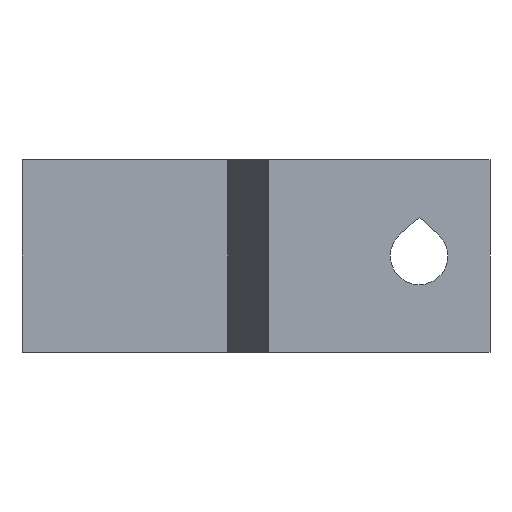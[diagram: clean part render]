
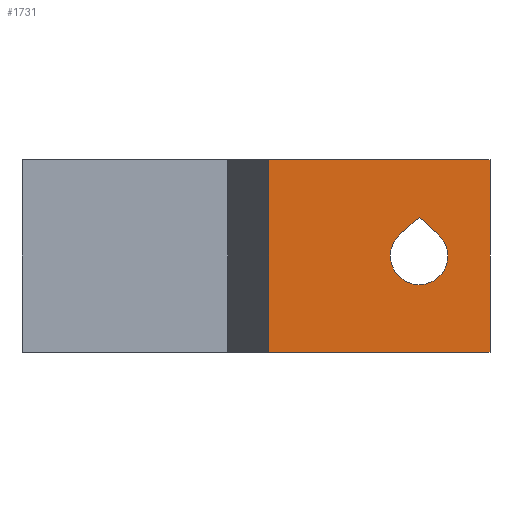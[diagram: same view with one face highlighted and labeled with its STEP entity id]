
A CAD part, left-side view. The second image highlights one B-rep face of the part: STEP entity #1731.
In plain terms, the highlighted planar face has unit normal (-1, 0, 0).
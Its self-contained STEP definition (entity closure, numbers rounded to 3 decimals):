
#90 = PLANE('',#91);
#91 = AXIS2_PLACEMENT_3D('',#92,#93,#94);
#92 = CARTESIAN_POINT('',(0.,10.429,20.8));
#93 = DIRECTION('',(-0.,-0.,-1.));
#94 = DIRECTION('',(-1.,0.,0.));
#144 = PLANE('',#145);
#145 = AXIS2_PLACEMENT_3D('',#146,#147,#148);
#146 = CARTESIAN_POINT('',(0.,10.429,7.2));
#147 = DIRECTION('',(-0.,-0.,-1.));
#148 = DIRECTION('',(-1.,0.,0.));
#268 = PLANE('',#269);
#269 = AXIS2_PLACEMENT_3D('',#270,#271,#272);
#270 = CARTESIAN_POINT('',(-13.5,10.6,7.2));
#271 = DIRECTION('',(-0.397,0.918,0.));
#272 = DIRECTION('',(0.918,0.397,0.));
#519 = VERTEX_POINT('',#520);
#520 = CARTESIAN_POINT('',(-13.5,-5.,7.2));
#534 = PLANE('',#535);
#535 = AXIS2_PLACEMENT_3D('',#536,#537,#538);
#536 = CARTESIAN_POINT('',(-10.6,-5.,7.2));
#537 = DIRECTION('',(0.,-1.,0.));
#538 = DIRECTION('',(-1.,0.,0.));
#546 = EDGE_CURVE('',#519,#547,#549,.T.);
#547 = VERTEX_POINT('',#548);
#548 = CARTESIAN_POINT('',(-13.5,10.6,7.2));
#549 = SURFACE_CURVE('',#550,(#554,#561),.PCURVE_S1.);
#550 = LINE('',#551,#552);
#551 = CARTESIAN_POINT('',(-13.5,-5.,7.2));
#552 = VECTOR('',#553,1.);
#553 = DIRECTION('',(0.,1.,0.));
#554 = PCURVE('',#144,#555);
#555 = DEFINITIONAL_REPRESENTATION('',(#556),#560);
#556 = LINE('',#557,#558);
#557 = CARTESIAN_POINT('',(13.5,-15.429));
#558 = VECTOR('',#559,1.);
#559 = DIRECTION('',(0.,1.));
#560 = ( GEOMETRIC_REPRESENTATION_CONTEXT(2) 
PARAMETRIC_REPRESENTATION_CONTEXT() REPRESENTATION_CONTEXT('2D SPACE',''
  ) );
#561 = PCURVE('',#562,#567);
#562 = PLANE('',#563);
#563 = AXIS2_PLACEMENT_3D('',#564,#565,#566);
#564 = CARTESIAN_POINT('',(-13.5,-5.,7.2));
#565 = DIRECTION('',(-1.,0.,0.));
#566 = DIRECTION('',(0.,1.,0.));
#567 = DEFINITIONAL_REPRESENTATION('',(#568),#572);
#568 = LINE('',#569,#570);
#569 = CARTESIAN_POINT('',(0.,0.));
#570 = VECTOR('',#571,1.);
#571 = DIRECTION('',(1.,0.));
#572 = ( GEOMETRIC_REPRESENTATION_CONTEXT(2) 
PARAMETRIC_REPRESENTATION_CONTEXT() REPRESENTATION_CONTEXT('2D SPACE',''
  ) );
#870 = VERTEX_POINT('',#871);
#871 = CARTESIAN_POINT('',(-13.5,-5.,20.8));
#892 = EDGE_CURVE('',#870,#893,#895,.T.);
#893 = VERTEX_POINT('',#894);
#894 = CARTESIAN_POINT('',(-13.5,10.6,20.8));
#895 = SURFACE_CURVE('',#896,(#900,#907),.PCURVE_S1.);
#896 = LINE('',#897,#898);
#897 = CARTESIAN_POINT('',(-13.5,-5.,20.8));
#898 = VECTOR('',#899,1.);
#899 = DIRECTION('',(0.,1.,0.));
#900 = PCURVE('',#90,#901);
#901 = DEFINITIONAL_REPRESENTATION('',(#902),#906);
#902 = LINE('',#903,#904);
#903 = CARTESIAN_POINT('',(13.5,-15.429));
#904 = VECTOR('',#905,1.);
#905 = DIRECTION('',(0.,1.));
#906 = ( GEOMETRIC_REPRESENTATION_CONTEXT(2) 
PARAMETRIC_REPRESENTATION_CONTEXT() REPRESENTATION_CONTEXT('2D SPACE',''
  ) );
#907 = PCURVE('',#562,#908);
#908 = DEFINITIONAL_REPRESENTATION('',(#909),#913);
#909 = LINE('',#910,#911);
#910 = CARTESIAN_POINT('',(0.,-13.6));
#911 = VECTOR('',#912,1.);
#912 = DIRECTION('',(1.,0.));
#913 = ( GEOMETRIC_REPRESENTATION_CONTEXT(2) 
PARAMETRIC_REPRESENTATION_CONTEXT() REPRESENTATION_CONTEXT('2D SPACE',''
  ) );
#1218 = EDGE_CURVE('',#547,#893,#1219,.T.);
#1219 = SURFACE_CURVE('',#1220,(#1224,#1231),.PCURVE_S1.);
#1220 = LINE('',#1221,#1222);
#1221 = CARTESIAN_POINT('',(-13.5,10.6,7.2));
#1222 = VECTOR('',#1223,1.);
#1223 = DIRECTION('',(0.,0.,1.));
#1224 = PCURVE('',#268,#1225);
#1225 = DEFINITIONAL_REPRESENTATION('',(#1226),#1230);
#1226 = LINE('',#1227,#1228);
#1227 = CARTESIAN_POINT('',(0.,0.));
#1228 = VECTOR('',#1229,1.);
#1229 = DIRECTION('',(0.,-1.));
#1230 = ( GEOMETRIC_REPRESENTATION_CONTEXT(2) 
PARAMETRIC_REPRESENTATION_CONTEXT() REPRESENTATION_CONTEXT('2D SPACE',''
  ) );
#1231 = PCURVE('',#562,#1232);
#1232 = DEFINITIONAL_REPRESENTATION('',(#1233),#1237);
#1233 = LINE('',#1234,#1235);
#1234 = CARTESIAN_POINT('',(15.6,0.));
#1235 = VECTOR('',#1236,1.);
#1236 = DIRECTION('',(0.,-1.));
#1237 = ( GEOMETRIC_REPRESENTATION_CONTEXT(2) 
PARAMETRIC_REPRESENTATION_CONTEXT() REPRESENTATION_CONTEXT('2D SPACE',''
  ) );
#1634 = PLANE('',#1635);
#1635 = AXIS2_PLACEMENT_3D('',#1636,#1637,#1638);
#1636 = CARTESIAN_POINT('',(-15.,0.,16.734));
#1637 = DIRECTION('',(-0.,0.673,0.74));
#1638 = DIRECTION('',(0.,0.74,-0.673));
#1667 = CYLINDRICAL_SURFACE('',#1668,2.025);
#1668 = AXIS2_PLACEMENT_3D('',#1669,#1670,#1671);
#1669 = CARTESIAN_POINT('',(-15.,0.,14.));
#1670 = DIRECTION('',(-1.,-0.,-0.));
#1671 = DIRECTION('',(0.,-0.635,0.773));
#1693 = PLANE('',#1694);
#1694 = AXIS2_PLACEMENT_3D('',#1695,#1696,#1697);
#1695 = CARTESIAN_POINT('',(-15.,-1.285,15.565));
#1696 = DIRECTION('',(0.,-0.673,0.74));
#1697 = DIRECTION('',(0.,0.74,0.673));
#1710 = EDGE_CURVE('',#519,#870,#1711,.T.);
#1711 = SURFACE_CURVE('',#1712,(#1716,#1723),.PCURVE_S1.);
#1712 = LINE('',#1713,#1714);
#1713 = CARTESIAN_POINT('',(-13.5,-5.,7.2));
#1714 = VECTOR('',#1715,1.);
#1715 = DIRECTION('',(0.,0.,1.));
#1716 = PCURVE('',#534,#1717);
#1717 = DEFINITIONAL_REPRESENTATION('',(#1718),#1722);
#1718 = LINE('',#1719,#1720);
#1719 = CARTESIAN_POINT('',(2.9,0.));
#1720 = VECTOR('',#1721,1.);
#1721 = DIRECTION('',(0.,-1.));
#1722 = ( GEOMETRIC_REPRESENTATION_CONTEXT(2) 
PARAMETRIC_REPRESENTATION_CONTEXT() REPRESENTATION_CONTEXT('2D SPACE',''
  ) );
#1723 = PCURVE('',#562,#1724);
#1724 = DEFINITIONAL_REPRESENTATION('',(#1725),#1729);
#1725 = LINE('',#1726,#1727);
#1726 = CARTESIAN_POINT('',(0.,0.));
#1727 = VECTOR('',#1728,1.);
#1728 = DIRECTION('',(0.,-1.));
#1729 = ( GEOMETRIC_REPRESENTATION_CONTEXT(2) 
PARAMETRIC_REPRESENTATION_CONTEXT() REPRESENTATION_CONTEXT('2D SPACE',''
  ) );
#1731 = ADVANCED_FACE('',(#1732,#1738),#562,.T.);
#1732 = FACE_BOUND('',#1733,.T.);
#1733 = EDGE_LOOP('',(#1734,#1735,#1736,#1737));
#1734 = ORIENTED_EDGE('',*,*,#1710,.T.);
#1735 = ORIENTED_EDGE('',*,*,#892,.T.);
#1736 = ORIENTED_EDGE('',*,*,#1218,.F.);
#1737 = ORIENTED_EDGE('',*,*,#546,.F.);
#1738 = FACE_BOUND('',#1739,.T.);
#1739 = EDGE_LOOP('',(#1740,#1766,#1789));
#1740 = ORIENTED_EDGE('',*,*,#1741,.F.);
#1741 = EDGE_CURVE('',#1742,#1744,#1746,.T.);
#1742 = VERTEX_POINT('',#1743);
#1743 = CARTESIAN_POINT('',(-13.5,1.285,15.565));
#1744 = VERTEX_POINT('',#1745);
#1745 = CARTESIAN_POINT('',(-13.5,-1.285,15.565));
#1746 = SURFACE_CURVE('',#1747,(#1752,#1759),.PCURVE_S1.);
#1747 = CIRCLE('',#1748,2.025);
#1748 = AXIS2_PLACEMENT_3D('',#1749,#1750,#1751);
#1749 = CARTESIAN_POINT('',(-13.5,0.,14.));
#1750 = DIRECTION('',(-1.,0.,0.));
#1751 = DIRECTION('',(0.,-0.635,0.773));
#1752 = PCURVE('',#562,#1753);
#1753 = DEFINITIONAL_REPRESENTATION('',(#1754),#1758);
#1754 = CIRCLE('',#1755,2.025);
#1755 = AXIS2_PLACEMENT_2D('',#1756,#1757);
#1756 = CARTESIAN_POINT('',(5.,-6.8));
#1757 = DIRECTION('',(-0.635,-0.773));
#1758 = ( GEOMETRIC_REPRESENTATION_CONTEXT(2) 
PARAMETRIC_REPRESENTATION_CONTEXT() REPRESENTATION_CONTEXT('2D SPACE',''
  ) );
#1759 = PCURVE('',#1667,#1760);
#1760 = DEFINITIONAL_REPRESENTATION('',(#1761),#1765);
#1761 = LINE('',#1762,#1763);
#1762 = CARTESIAN_POINT('',(0.,-1.5));
#1763 = VECTOR('',#1764,1.);
#1764 = DIRECTION('',(1.,-0.));
#1765 = ( GEOMETRIC_REPRESENTATION_CONTEXT(2) 
PARAMETRIC_REPRESENTATION_CONTEXT() REPRESENTATION_CONTEXT('2D SPACE',''
  ) );
#1766 = ORIENTED_EDGE('',*,*,#1767,.F.);
#1767 = EDGE_CURVE('',#1768,#1742,#1770,.T.);
#1768 = VERTEX_POINT('',#1769);
#1769 = CARTESIAN_POINT('',(-13.5,0.,16.734));
#1770 = SURFACE_CURVE('',#1771,(#1775,#1782),.PCURVE_S1.);
#1771 = LINE('',#1772,#1773);
#1772 = CARTESIAN_POINT('',(-13.5,1.004,15.82));
#1773 = VECTOR('',#1774,1.);
#1774 = DIRECTION('',(0.,0.74,-0.673));
#1775 = PCURVE('',#562,#1776);
#1776 = DEFINITIONAL_REPRESENTATION('',(#1777),#1781);
#1777 = LINE('',#1778,#1779);
#1778 = CARTESIAN_POINT('',(6.004,-8.62));
#1779 = VECTOR('',#1780,1.);
#1780 = DIRECTION('',(0.74,0.673));
#1781 = ( GEOMETRIC_REPRESENTATION_CONTEXT(2) 
PARAMETRIC_REPRESENTATION_CONTEXT() REPRESENTATION_CONTEXT('2D SPACE',''
  ) );
#1782 = PCURVE('',#1634,#1783);
#1783 = DEFINITIONAL_REPRESENTATION('',(#1784),#1788);
#1784 = LINE('',#1785,#1786);
#1785 = CARTESIAN_POINT('',(1.358,-1.5));
#1786 = VECTOR('',#1787,1.);
#1787 = DIRECTION('',(1.,0.));
#1788 = ( GEOMETRIC_REPRESENTATION_CONTEXT(2) 
PARAMETRIC_REPRESENTATION_CONTEXT() REPRESENTATION_CONTEXT('2D SPACE',''
  ) );
#1789 = ORIENTED_EDGE('',*,*,#1790,.F.);
#1790 = EDGE_CURVE('',#1744,#1768,#1791,.T.);
#1791 = SURFACE_CURVE('',#1792,(#1796,#1803),.PCURVE_S1.);
#1792 = LINE('',#1793,#1794);
#1793 = CARTESIAN_POINT('',(-13.5,-4.384,12.747));
#1794 = VECTOR('',#1795,1.);
#1795 = DIRECTION('',(0.,0.74,0.673));
#1796 = PCURVE('',#562,#1797);
#1797 = DEFINITIONAL_REPRESENTATION('',(#1798),#1802);
#1798 = LINE('',#1799,#1800);
#1799 = CARTESIAN_POINT('',(0.616,-5.547));
#1800 = VECTOR('',#1801,1.);
#1801 = DIRECTION('',(0.74,-0.673));
#1802 = ( GEOMETRIC_REPRESENTATION_CONTEXT(2) 
PARAMETRIC_REPRESENTATION_CONTEXT() REPRESENTATION_CONTEXT('2D SPACE',''
  ) );
#1803 = PCURVE('',#1693,#1804);
#1804 = DEFINITIONAL_REPRESENTATION('',(#1805),#1809);
#1805 = LINE('',#1806,#1807);
#1806 = CARTESIAN_POINT('',(-4.188,-1.5));
#1807 = VECTOR('',#1808,1.);
#1808 = DIRECTION('',(1.,0.));
#1809 = ( GEOMETRIC_REPRESENTATION_CONTEXT(2) 
PARAMETRIC_REPRESENTATION_CONTEXT() REPRESENTATION_CONTEXT('2D SPACE',''
  ) );
